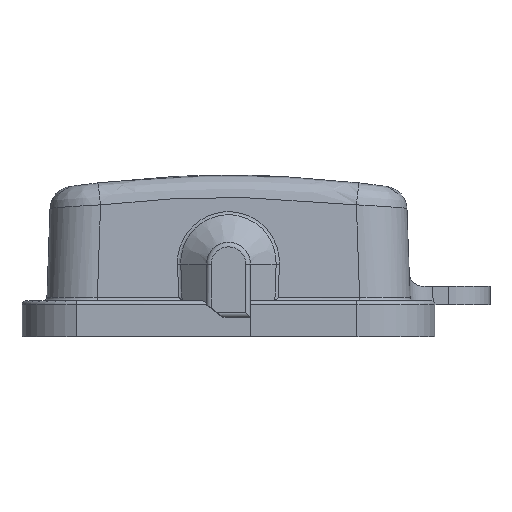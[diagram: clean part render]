
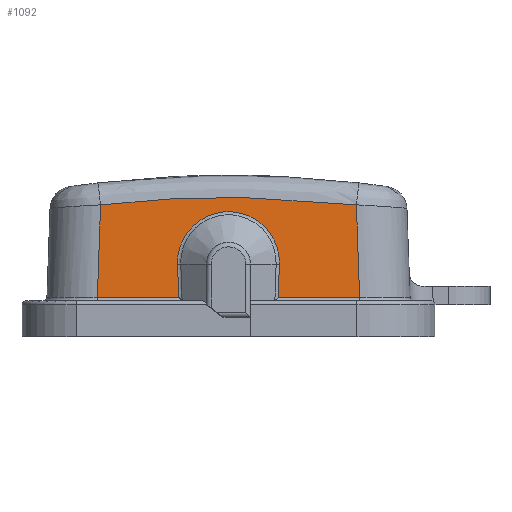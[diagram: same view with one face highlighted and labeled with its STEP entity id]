
A CAD part, left-side view. The second image highlights one B-rep face of the part: STEP entity #1092.
In plain terms, the highlighted planar face has unit normal (-0.999, 0, 0.035).
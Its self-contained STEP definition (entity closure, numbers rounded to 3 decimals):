
#664=PLANE('',#6186);
#820=FACE_OUTER_BOUND('',#1602,.T.);
#1092=ADVANCED_FACE('',(#820),#664,.T.);
#1494=ELLIPSE('',#6184,5.557,5.55);
#1495=ELLIPSE('',#6185,119.473,119.4);
#1602=EDGE_LOOP('',(#2169,#2170,#2171,#2172,#2173,#2174,#2175,#2176));
#2169=ORIENTED_EDGE('',*,*,#3972,.T.);
#2170=ORIENTED_EDGE('',*,*,#3973,.T.);
#2171=ORIENTED_EDGE('',*,*,#3974,.T.);
#2172=ORIENTED_EDGE('',*,*,#3975,.T.);
#2173=ORIENTED_EDGE('',*,*,#3976,.T.);
#2174=ORIENTED_EDGE('',*,*,#3977,.T.);
#2175=ORIENTED_EDGE('',*,*,#3820,.T.);
#2176=ORIENTED_EDGE('',*,*,#3978,.T.);
#3376=VERTEX_POINT('',#8716);
#3377=VERTEX_POINT('',#8718);
#3504=VERTEX_POINT('',#9303);
#3505=VERTEX_POINT('',#9304);
#3506=VERTEX_POINT('',#9306);
#3507=VERTEX_POINT('',#9308);
#3508=VERTEX_POINT('',#9310);
#3509=VERTEX_POINT('',#9312);
#3820=EDGE_CURVE('',#3377,#3376,#4982,.T.);
#3972=EDGE_CURVE('',#3504,#3505,#1494,.T.);
#3973=EDGE_CURVE('',#3505,#3506,#5049,.T.);
#3974=EDGE_CURVE('',#3506,#3507,#5050,.T.);
#3975=EDGE_CURVE('',#3507,#3508,#5051,.T.);
#3976=EDGE_CURVE('',#3508,#3509,#1495,.T.);
#3977=EDGE_CURVE('',#3509,#3377,#5052,.T.);
#3978=EDGE_CURVE('',#3376,#3504,#5053,.T.);
#4982=LINE('',#8717,#5430);
#5049=LINE('',#9305,#5497);
#5050=LINE('',#9307,#5498);
#5051=LINE('',#9309,#5499);
#5052=LINE('',#9313,#5500);
#5053=LINE('',#9314,#5501);
#5430=VECTOR('',#6777,1.);
#5497=VECTOR('',#7006,1.);
#5498=VECTOR('',#7007,1.);
#5499=VECTOR('',#7008,1.);
#5500=VECTOR('',#7011,1.);
#5501=VECTOR('',#7012,1.);
#6184=AXIS2_PLACEMENT_3D('',#9302,#7004,#7005);
#6185=AXIS2_PLACEMENT_3D('',#9311,#7009,#7010);
#6186=AXIS2_PLACEMENT_3D('',#9315,#7013,#7014);
#6777=DIRECTION('',(0.,-1.,0.));
#7004=DIRECTION('',(0.999,0.,-0.035));
#7005=DIRECTION('',(0.035,0.,0.999));
#7006=DIRECTION('',(-0.035,0.035,-0.999));
#7007=DIRECTION('',(0.,-1.,0.));
#7008=DIRECTION('',(0.035,0.035,0.999));
#7009=DIRECTION('',(-0.999,0.,0.035));
#7010=DIRECTION('',(-0.035,0.,-0.999));
#7011=DIRECTION('',(-0.035,0.035,-0.999));
#7012=DIRECTION('',(0.035,0.035,0.999));
#7013=DIRECTION('',(-0.999,0.,0.035));
#7014=DIRECTION('',(0.035,0.,0.999));
#8716=CARTESIAN_POINT('',(-27.887,5.421,4.286));
#8717=CARTESIAN_POINT('',(-27.887,-14.303,4.286));
#8718=CARTESIAN_POINT('',(-27.887,14.29,4.286));
#9302=CARTESIAN_POINT('',(-27.754,0.,8.076));
#9303=CARTESIAN_POINT('',(-27.761,5.546,7.883));
#9304=CARTESIAN_POINT('',(-27.761,-5.546,7.883));
#9305=CARTESIAN_POINT('',(-27.882,-5.425,4.401));
#9306=CARTESIAN_POINT('',(-27.887,-5.421,4.286));
#9307=CARTESIAN_POINT('',(-27.887,-14.303,4.286));
#9308=CARTESIAN_POINT('',(-27.887,-14.29,4.286));
#9309=CARTESIAN_POINT('',(-27.907,-14.31,3.709));
#9310=CARTESIAN_POINT('',(-27.534,-13.938,14.371));
#9311=CARTESIAN_POINT('',(-31.675,0.,-104.213));
#9312=CARTESIAN_POINT('',(-27.534,13.938,14.371));
#9313=CARTESIAN_POINT('',(-27.859,14.262,5.088));
#9314=CARTESIAN_POINT('',(-27.931,5.377,3.022));
#9315=CARTESIAN_POINT('',(-27.9,-19.8,3.9));
